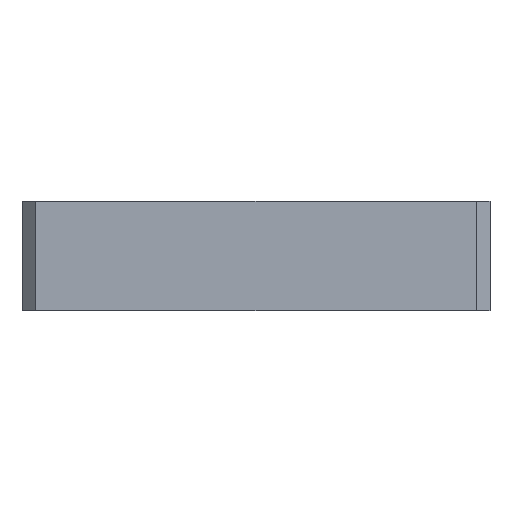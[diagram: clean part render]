
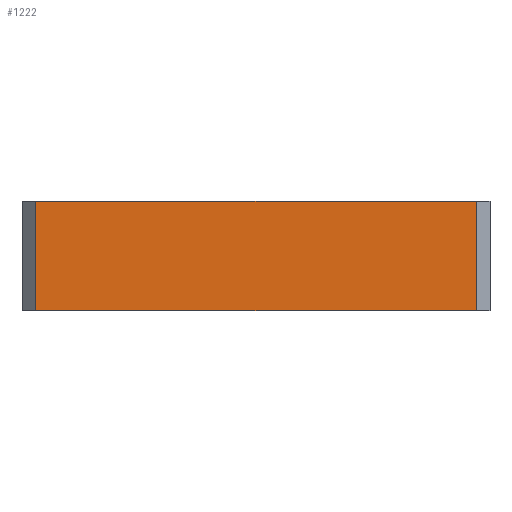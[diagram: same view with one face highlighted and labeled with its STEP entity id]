
A CAD part, left-side view. The second image highlights one B-rep face of the part: STEP entity #1222.
In plain terms, the highlighted planar face has unit normal (-1, 0, 0).
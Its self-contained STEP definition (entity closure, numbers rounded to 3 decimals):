
#74 = DIRECTION ( 'NONE',  ( 0., -1., 0. ) ) ;
#89 = VECTOR ( 'NONE', #74, 1000. ) ;
#113 = VECTOR ( 'NONE', #1540, 1000. ) ;
#146 = ORIENTED_EDGE ( 'NONE', *, *, #1472, .F. ) ;
#174 = DIRECTION ( 'NONE',  ( 0., 0., -1. ) ) ;
#194 = VERTEX_POINT ( 'NONE', #1636 ) ;
#199 = ORIENTED_EDGE ( 'NONE', *, *, #1038, .T. ) ;
#257 = CARTESIAN_POINT ( 'NONE',  ( -29.5, -25.5, 8. ) ) ;
#353 = CARTESIAN_POINT ( 'NONE',  ( -29.5, 6.7, 8. ) ) ;
#376 = EDGE_LOOP ( 'NONE', ( #711, #1086, #146, #199 ) ) ;
#436 = LINE ( 'NONE', #257, #89 ) ;
#440 = EDGE_CURVE ( 'NONE', #1524, #194, #1012, .T. ) ;
#443 = AXIS2_PLACEMENT_3D ( 'NONE', #1006, #809, #623 ) ;
#456 = FACE_OUTER_BOUND ( 'NONE', #376, .T. ) ;
#548 = LINE ( 'NONE', #353, #704 ) ;
#623 = DIRECTION ( 'NONE',  ( 0., 0., -1. ) ) ;
#628 = DIRECTION ( 'NONE',  ( 0., 0., -1. ) ) ;
#680 = LINE ( 'NONE', #1691, #113 ) ;
#704 = VECTOR ( 'NONE', #174, 1000. ) ;
#711 = ORIENTED_EDGE ( 'NONE', *, *, #1452, .T. ) ;
#785 = CARTESIAN_POINT ( 'NONE',  ( -29.5, -25.5, 8. ) ) ;
#809 = DIRECTION ( 'NONE',  ( 1., 0., 0. ) ) ;
#815 = CARTESIAN_POINT ( 'NONE',  ( -29.5, -25.5, 8. ) ) ;
#1006 = CARTESIAN_POINT ( 'NONE',  ( -29.5, -25.5, 8. ) ) ;
#1012 = LINE ( 'NONE', #815, #1434 ) ;
#1038 = EDGE_CURVE ( 'NONE', #1659, #1573, #548, .T. ) ;
#1086 = ORIENTED_EDGE ( 'NONE', *, *, #440, .F. ) ;
#1191 = PLANE ( 'NONE',  #443 ) ;
#1222 = ADVANCED_FACE ( 'NONE', ( #456 ), #1191, .F. ) ;
#1231 = CARTESIAN_POINT ( 'NONE',  ( -29.5, 6.7, 8. ) ) ;
#1426 = CARTESIAN_POINT ( 'NONE',  ( -29.5, 6.7, 0. ) ) ;
#1434 = VECTOR ( 'NONE', #628, 1000. ) ;
#1452 = EDGE_CURVE ( 'NONE', #1573, #194, #680, .T. ) ;
#1472 = EDGE_CURVE ( 'NONE', #1659, #1524, #436, .T. ) ;
#1524 = VERTEX_POINT ( 'NONE', #785 ) ;
#1540 = DIRECTION ( 'NONE',  ( 0., -1., 0. ) ) ;
#1573 = VERTEX_POINT ( 'NONE', #1426 ) ;
#1636 = CARTESIAN_POINT ( 'NONE',  ( -29.5, -25.5, 0. ) ) ;
#1659 = VERTEX_POINT ( 'NONE', #1231 ) ;
#1691 = CARTESIAN_POINT ( 'NONE',  ( -29.5, -25.5, 0. ) ) ;
